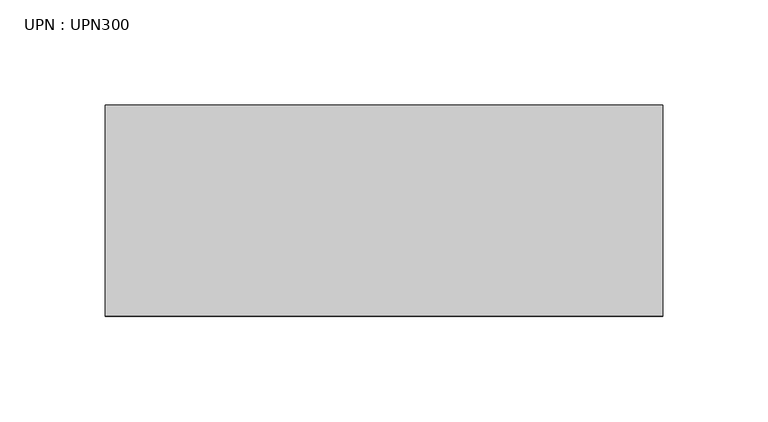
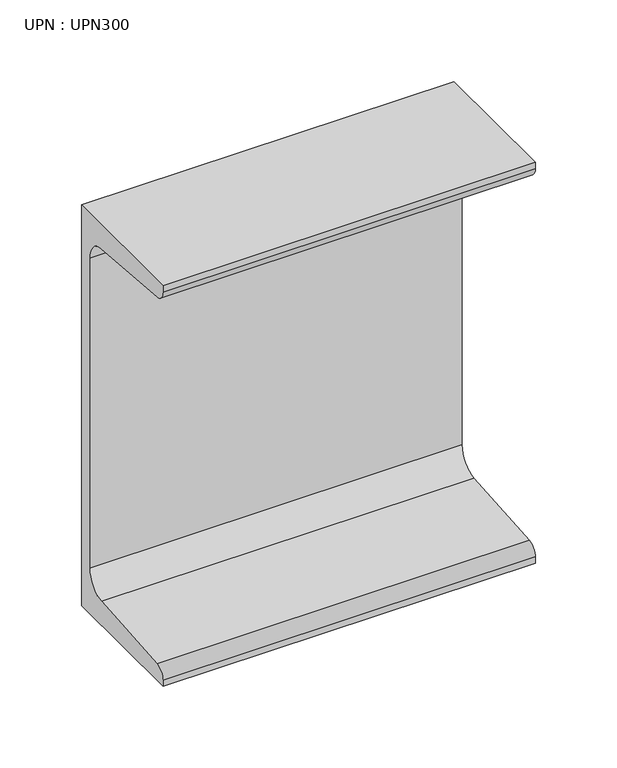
"""IFC4 building model written with IfcOpenShell, lengths in millimetres: beam geometry, UPN : UPN300."""

from ifc_helpers import new_model, si_unit, point, frame, frame_2d, origin, place, context, project, spatial, polyline, circle_curve, trimmed, segment, composite_curve, outline, extrude, source, transform, mapped, element, save


def upn_upn300_c02c083d(model_context):
    return source(origin(), model_context, "Body", "SweptSolid", [
        extrude(outline(composite_curve([segment(polyline([(27.0, 150.0), (27.0, -150.0), (-73.0, -150.0), (-73.0, -145.3826224)]), True, "CONTINUOUS"), segment(trimmed(circle_curve(frame_2d((-65.0, -145.3826224)), 8.0), [point((-73.0, -145.3826224))], [point((-65.637416, -137.4080566))], False, "CARTESIAN"), True, "CONTINUOUS"), segment(polyline([(-65.637416, -137.4080566), (2.274832, -131.9797543)]), True, "CONTINUOUS"), segment(trimmed(circle_curve(frame_2d((1.0, -116.0306225)), 16.0), [point((2.274832, -131.9797543))], [point((17.0, -116.0306225))], True, "CARTESIAN"), True, "CONTINUOUS"), segment(polyline([(17.0, -116.0306225), (17.0, 116.0306225)]), True, "CONTINUOUS"), segment(trimmed(circle_curve(frame_2d((1.0, 116.0306225)), 16.0), [point((17.0, 116.0306225))], [point((2.274832, 131.9797543))], True, "CARTESIAN"), True, "CONTINUOUS"), segment(polyline([(2.274832, 131.9797543), (-65.637416, 137.4080566)]), True, "CONTINUOUS"), segment(trimmed(circle_curve(frame_2d((-65.0, 145.3826224)), 8.0), [point((-65.637416, 137.4080566))], [point((-73.0, 145.3826224))], False, "CARTESIAN"), True, "CONTINUOUS"), segment(polyline([(-73.0, 145.3826224), (-73.0, 150.0), (27.0, 150.0)]), True, "CONTINUOUS")], self_intersect=False)), frame((-132.0, 0.0, 0.0), z_axis=(1.0, 0.0, 0.0), x_axis=(0.0, 1.0, 0.0)), (0.0, 0.0, 1.0), 264.0),
    ])


if __name__ == "__main__":
    model = new_model("IFC4")
    model_context = context("Model", 3, world=origin())
    ifc_project = project(units=[si_unit("LENGTHUNIT", "METRE", prefix="MILLI")], contexts=[model_context])
    site = spatial("IfcSite", under=ifc_project)
    building = spatial("IfcBuilding", under=site)
    placement = place(None, origin())
    upn_upn300_shape = upn_upn300_c02c083d(model_context)
    element("IfcBeam", 1, ObjectType="UPN : UPN300", at=placement, inside=building, context=model_context, shape_type="MappedRepresentation", body=[
        mapped(upn_upn300_shape, transform((0.0, 0.0, 0.0), x_axis=(1.0, 0.0, 0.0), y_axis=(0.0, 1.0, 0.0), z_axis=(0.0, 0.0, 1.0))),
    ])
    save(model, "model.ifc")
